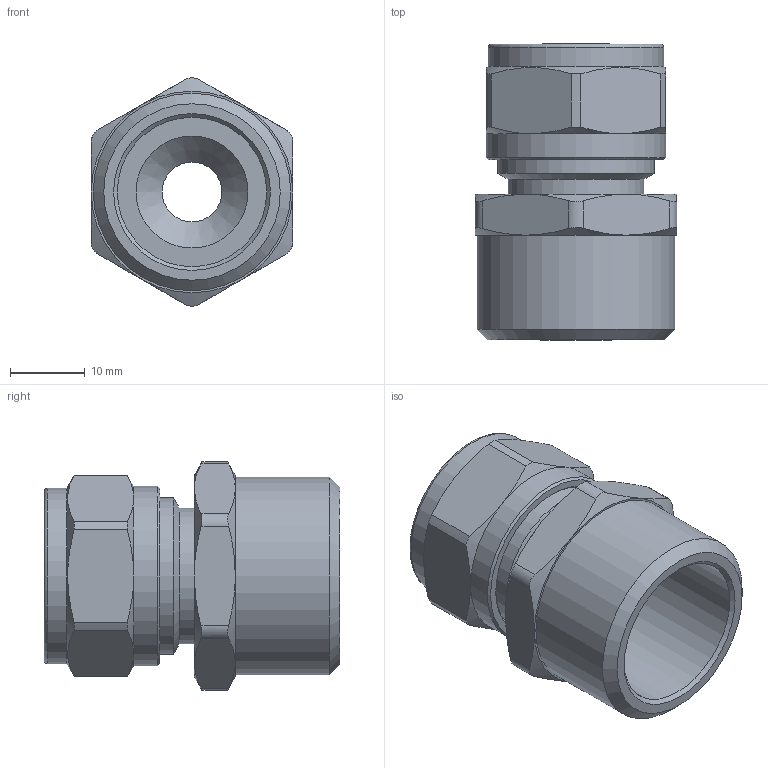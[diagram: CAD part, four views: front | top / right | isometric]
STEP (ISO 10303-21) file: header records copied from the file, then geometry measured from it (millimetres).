
FILE_DESCRIPTION(('STEP AP203'), '1');
FILE_NAME('VTm.301.N.001605', '', ('UNSPECIFIED'), ('UNSPECIFIED'), 'C3D Converter', 'C3D Toolkit', '');
FILE_SCHEMA(('CONFIG_CONTROL_DESIGN'));
Length unit declared in the file: millimetre
Products named in the file (1): ВР.302634.050.000 СБ
Bounding box: 27 x 39.61 x 30.55 mm (x, y, z)
Volume: 11338.7 mm3; surface area: 8905.6 mm2
Topology: 2 solids, 2 shells, 301 faces, 790 edges, 516 vertices
Faces by surface type: extrusion 111, plane 98, cylinder 37, cone 28, torus 27
Full cylindrical faces by diameter (mm): 8 x1, 11.8 x4, 12.4 x1, 16.2 x1, 16.7 x1, 18.2 x1, 18.632 x1, 20 x1, 20.955 x1, 23.5 x1, 24 x1, 26.441 x1
Entity records: 11419 total; most frequent: CARTESIAN_POINT 4680, ORIENTED_EDGE 1502, DIRECTION 1021, EDGE_CURVE 751, VERTEX_POINT 516, B_SPLINE_CURVE_WITH_KNOTS 423, VECTOR 421, EDGE_LOOP 365
